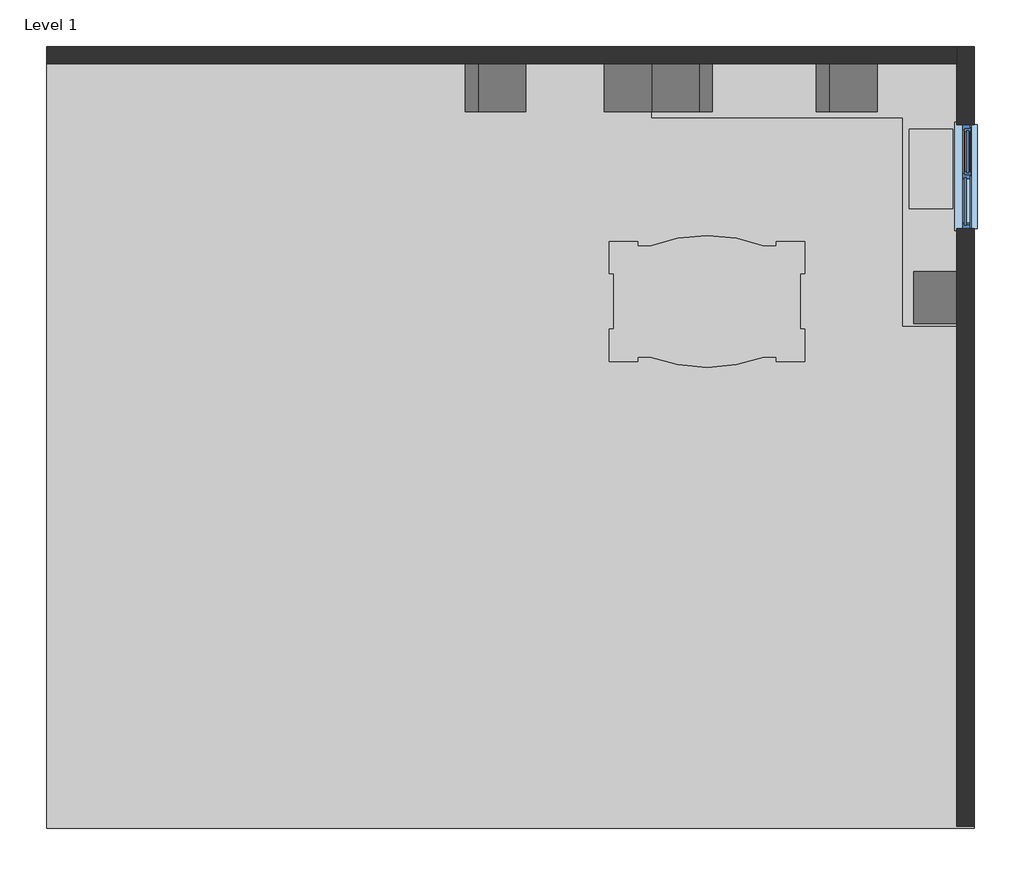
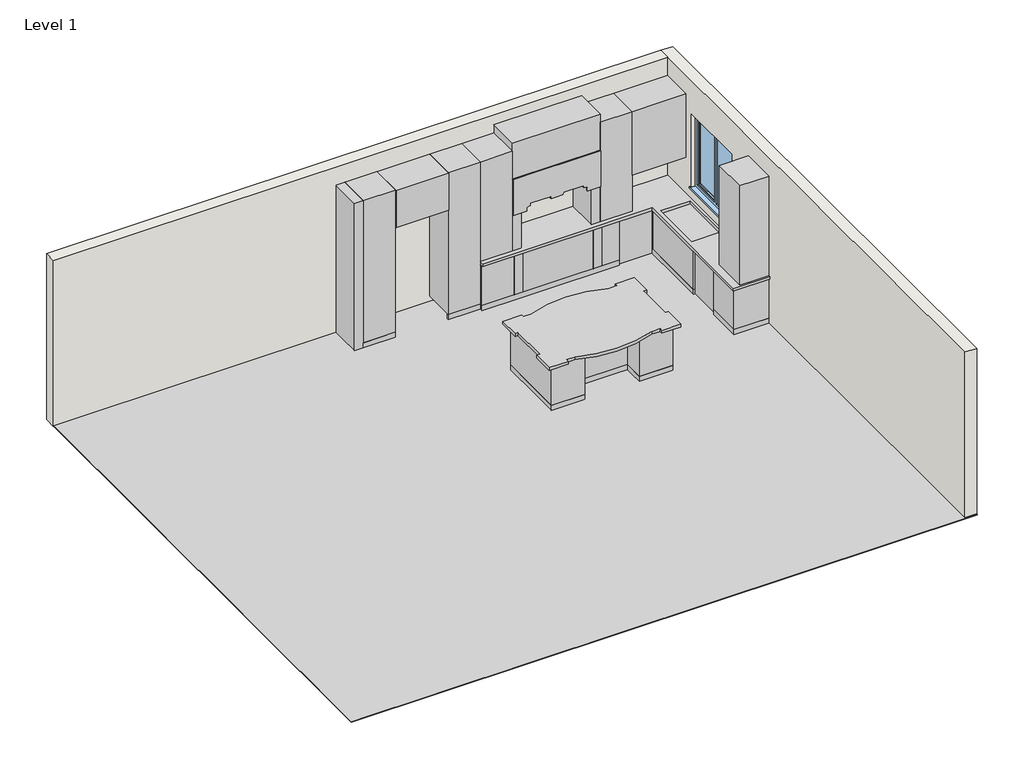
# One storey: 3 proxies, 2 walls, 1 window.
"""IFC4 building model written with IfcOpenShell, lengths in millimetres."""

from ifc_helpers import new_model, si_unit, origin, origin_with_axes, place, context, project, spatial, polyline, outline, extrude, faceted_brep, transform, mapped, element, save
from components import generic_models_1_generic_models_1_8641127e, generic_models_2_generic_models_2_6f7b25b5, generic_models_4_generic_models_3_3aa5123b, dbl_plain_dbl_plain_05760ac3

model = new_model("IFC4")

# Units and contexts
model_context = context("Model", 3, world=origin())
ifc_project = project(units=[si_unit("LENGTHUNIT", "METRE", prefix="MILLI")], contexts=[model_context])

# Site, building, storey
site = spatial("IfcSite", under=ifc_project)
building = spatial("IfcBuilding", under=site)
storey = spatial("IfcBuildingStorey", under=building, Name="Level 1", Elevation=0.0)

# Proxies
placement = place(None, origin())
generic_models_1_generic_models_1_shape = generic_models_1_generic_models_1_8641127e(model_context)
element("IfcBuildingElementProxy", 1, Name="Generic Models 1 : Generic Models 1", ObjectType="Generic Models 1 : Generic Models 1", at=placement, inside=storey, context=model_context, shape_type="MappedRepresentation", body=[
    mapped(generic_models_1_generic_models_1_shape, transform((0.0, 0.0, 0.0), x_axis=(1.0, 0.0, 0.0), y_axis=(0.0, 1.0, 0.0), z_axis=(0.0, 0.0, 1.0))),
])
generic_models_2_generic_models_2_shape = generic_models_2_generic_models_2_6f7b25b5(model_context)
element("IfcBuildingElementProxy", 2, Name="Generic Models 2 : Generic Models 2", ObjectType="Generic Models 2 : Generic Models 2", at=placement, inside=storey, context=model_context, shape_type="MappedRepresentation", body=[
    mapped(generic_models_2_generic_models_2_shape, transform((0.0, 0.0, 0.0), x_axis=(1.0, 0.0, 0.0), y_axis=(0.0, 1.0, 0.0), z_axis=(0.0, 0.0, 1.0))),
])
generic_models_4_generic_models_3_shape = generic_models_4_generic_models_3_3aa5123b(model_context)
element("IfcBuildingElementProxy", 3, Name="Generic Models 4 : Generic Models 3", ObjectType="Generic Models 4 : Generic Models 3", at=placement, inside=storey, context=model_context, shape_type="MappedRepresentation", body=[
    mapped(generic_models_4_generic_models_3_shape, transform((0.0, 0.0, 0.0), x_axis=(1.0, 0.0, 0.0), y_axis=(0.0, 1.0, 0.0), z_axis=(0.0, 0.0, 1.0))),
])

# Walls
element("IfcWall", 4, ObjectType="Generic - 200mm", at=placement, inside=storey, context=model_context, shape_type="Brep", body=[
    faceted_brep([(12765.1996652, -8922.5067795, 0.0), (12765.1996652, 77.4932205, 0.0), (12765.1996652, 77.4932205, 3000.0), (12765.1996652, -8922.5067795, 3000.0), (12765.1996652, -2022.5067795, 2396.5510309), (12765.1996652, -822.5067795, 2396.5510309), (12765.1996652, -822.5067795, 1046.5510309), (12765.1996652, -2022.5067795, 1046.5510309), (12565.1996652, -8922.5067795, 0.0), (12565.1996652, -8922.5067795, 3000.0), (12565.1996652, -122.5067795, 3000.0), (12565.1996652, 77.4932205, 3000.0), (12565.1996652, 77.4932205, 0.0), (12565.1996652, -122.5067795, 0.0), (12565.1996652, -2022.5067795, 2396.5510309), (12565.1996652, -2022.5067795, 1046.5510309), (12565.1996652, -822.5067795, 1046.5510309), (12565.1996652, -822.5067795, 2396.5510309)], [[[0, 1, 2, 3], [4, 5, 6, 7]], [[8, 9, 10, 11, 12, 13], [14, 15, 16, 17]], [[1, 0, 8, 13, 12]], [[3, 2, 11, 10, 9]], [[0, 3, 9, 8]], [[2, 1, 12, 11]], [[15, 14, 4, 7]], [[16, 15, 7, 6]], [[17, 16, 6, 5]], [[14, 17, 5, 4]]]),
])
element("IfcWall", 5, ObjectType="Generic - 200mm", at=placement, inside=storey, context=model_context, shape_type="SweptSolid", body=[
    extrude(outline(polyline([(2065.1996652, 77.4932205), (12565.1996652, 77.4932205), (12565.1996652, -122.5067795), (2065.1996652, -122.5067795), (2065.1996652, 77.4932205)])), origin_with_axes(), (0.0, 0.0, 1.0), 3000.0),
])

# Window
dbl_plain_dbl_plain_shape = dbl_plain_dbl_plain_05760ac3(model_context)
element("IfcWindow", 6, ObjectType="Dbl Plain : Dbl Plain", at=placement, inside=storey, context=model_context, shape_type="MappedRepresentation", body=[
    mapped(dbl_plain_dbl_plain_shape, transform((12656.7430974, -1137.5067795, 286.5510309), x_axis=(0.0, 1.0, 0.0), y_axis=(-1.0, 0.0, 0.0), z_axis=(0.0, 0.0, 1.0))),
])

save(model, "model.ifc")
